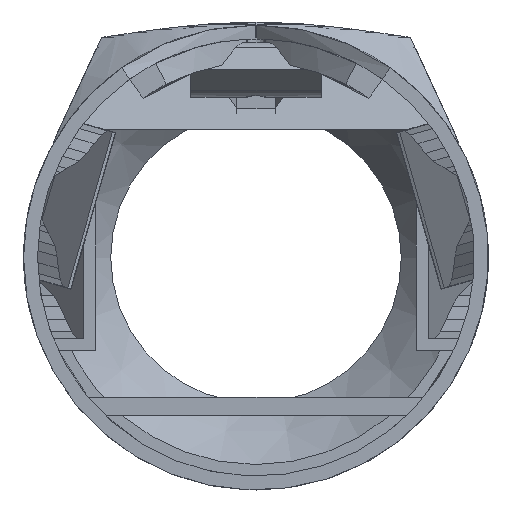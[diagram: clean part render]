
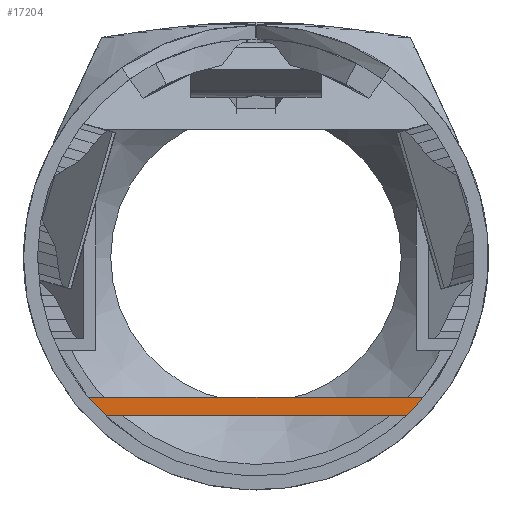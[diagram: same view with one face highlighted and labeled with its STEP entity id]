
A CAD part, left-side view. The second image highlights one B-rep face of the part: STEP entity #17204.
In plain terms, the highlighted planar face has unit normal (-1, 0, 0).
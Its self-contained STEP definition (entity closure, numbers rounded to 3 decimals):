
#6579 = CYLINDRICAL_SURFACE('',#6580,18.8);
#6580 = AXIS2_PLACEMENT_3D('',#6581,#6582,#6583);
#6581 = CARTESIAN_POINT('',(42.,0.,0.));
#6582 = DIRECTION('',(1.,0.,0.));
#6583 = DIRECTION('',(-0.,1.,0.));
#14800 = EDGE_CURVE('',#14801,#14803,#14805,.T.);
#14801 = VERTEX_POINT('',#14802);
#14802 = CARTESIAN_POINT('',(220.,-14.472,-12.));
#14803 = VERTEX_POINT('',#14804);
#14804 = CARTESIAN_POINT('',(220.,-12.98,-13.6));
#14805 = SURFACE_CURVE('',#14806,(#14811,#14818),.PCURVE_S1.);
#14806 = CIRCLE('',#14807,18.8);
#14807 = AXIS2_PLACEMENT_3D('',#14808,#14809,#14810);
#14808 = CARTESIAN_POINT('',(220.,0.,0.));
#14809 = DIRECTION('',(1.,0.,0.));
#14810 = DIRECTION('',(-0.,1.,0.));
#14811 = PCURVE('',#6579,#14812);
#14812 = DEFINITIONAL_REPRESENTATION('',(#14813),#14817);
#14813 = LINE('',#14814,#14815);
#14814 = CARTESIAN_POINT('',(0.,178.));
#14815 = VECTOR('',#14816,1.);
#14816 = DIRECTION('',(1.,0.));
#14817 = ( GEOMETRIC_REPRESENTATION_CONTEXT(2) 
PARAMETRIC_REPRESENTATION_CONTEXT() REPRESENTATION_CONTEXT('2D SPACE',''
  ) );
#14818 = PCURVE('',#14819,#14824);
#14819 = PLANE('',#14820);
#14820 = AXIS2_PLACEMENT_3D('',#14821,#14822,#14823);
#14821 = CARTESIAN_POINT('',(220.,-14.972,-13.6));
#14822 = DIRECTION('',(1.,0.,-0.));
#14823 = DIRECTION('',(0.,0.,1.));
#14824 = DEFINITIONAL_REPRESENTATION('',(#14825),#14829);
#14825 = CIRCLE('',#14826,18.8);
#14826 = AXIS2_PLACEMENT_2D('',#14827,#14828);
#14827 = CARTESIAN_POINT('',(13.6,-14.972));
#14828 = DIRECTION('',(0.,-1.));
#14829 = ( GEOMETRIC_REPRESENTATION_CONTEXT(2) 
PARAMETRIC_REPRESENTATION_CONTEXT() REPRESENTATION_CONTEXT('2D SPACE',''
  ) );
#14846 = PLANE('',#14847);
#14847 = AXIS2_PLACEMENT_3D('',#14848,#14849,#14850);
#14848 = CARTESIAN_POINT('',(220.,-14.972,-12.));
#14849 = DIRECTION('',(0.,0.,1.));
#14850 = DIRECTION('',(1.,0.,-0.));
#14899 = PLANE('',#14900);
#14900 = AXIS2_PLACEMENT_3D('',#14901,#14902,#14903);
#14901 = CARTESIAN_POINT('',(220.,-14.972,-13.6));
#14902 = DIRECTION('',(0.,0.,1.));
#14903 = DIRECTION('',(1.,0.,-0.));
#14984 = EDGE_CURVE('',#14985,#14987,#14989,.T.);
#14985 = VERTEX_POINT('',#14986);
#14986 = CARTESIAN_POINT('',(220.,12.98,-13.6));
#14987 = VERTEX_POINT('',#14988);
#14988 = CARTESIAN_POINT('',(220.,14.472,-12.));
#14989 = SURFACE_CURVE('',#14990,(#14995,#15002),.PCURVE_S1.);
#14990 = CIRCLE('',#14991,18.8);
#14991 = AXIS2_PLACEMENT_3D('',#14992,#14993,#14994);
#14992 = CARTESIAN_POINT('',(220.,0.,0.));
#14993 = DIRECTION('',(1.,0.,0.));
#14994 = DIRECTION('',(-0.,1.,0.));
#14995 = PCURVE('',#6579,#14996);
#14996 = DEFINITIONAL_REPRESENTATION('',(#14997),#15001);
#14997 = LINE('',#14998,#14999);
#14998 = CARTESIAN_POINT('',(0.,178.));
#14999 = VECTOR('',#15000,1.);
#15000 = DIRECTION('',(1.,0.));
#15001 = ( GEOMETRIC_REPRESENTATION_CONTEXT(2) 
PARAMETRIC_REPRESENTATION_CONTEXT() REPRESENTATION_CONTEXT('2D SPACE',''
  ) );
#15002 = PCURVE('',#14819,#15003);
#15003 = DEFINITIONAL_REPRESENTATION('',(#15004),#15008);
#15004 = CIRCLE('',#15005,18.8);
#15005 = AXIS2_PLACEMENT_2D('',#15006,#15007);
#15006 = CARTESIAN_POINT('',(13.6,-14.972));
#15007 = DIRECTION('',(0.,-1.));
#15008 = ( GEOMETRIC_REPRESENTATION_CONTEXT(2) 
PARAMETRIC_REPRESENTATION_CONTEXT() REPRESENTATION_CONTEXT('2D SPACE',''
  ) );
#15077 = EDGE_CURVE('',#14803,#14985,#15078,.T.);
#15078 = SURFACE_CURVE('',#15079,(#15083,#15090),.PCURVE_S1.);
#15079 = LINE('',#15080,#15081);
#15080 = CARTESIAN_POINT('',(220.,-14.972,-13.6));
#15081 = VECTOR('',#15082,1.);
#15082 = DIRECTION('',(-0.,1.,0.));
#15083 = PCURVE('',#14899,#15084);
#15084 = DEFINITIONAL_REPRESENTATION('',(#15085),#15089);
#15085 = LINE('',#15086,#15087);
#15086 = CARTESIAN_POINT('',(0.,0.));
#15087 = VECTOR('',#15088,1.);
#15088 = DIRECTION('',(0.,1.));
#15089 = ( GEOMETRIC_REPRESENTATION_CONTEXT(2) 
PARAMETRIC_REPRESENTATION_CONTEXT() REPRESENTATION_CONTEXT('2D SPACE',''
  ) );
#15090 = PCURVE('',#14819,#15091);
#15091 = DEFINITIONAL_REPRESENTATION('',(#15092),#15096);
#15092 = LINE('',#15093,#15094);
#15093 = CARTESIAN_POINT('',(0.,0.));
#15094 = VECTOR('',#15095,1.);
#15095 = DIRECTION('',(0.,-1.));
#15096 = ( GEOMETRIC_REPRESENTATION_CONTEXT(2) 
PARAMETRIC_REPRESENTATION_CONTEXT() REPRESENTATION_CONTEXT('2D SPACE',''
  ) );
#17142 = EDGE_CURVE('',#14801,#14987,#17143,.T.);
#17143 = SURFACE_CURVE('',#17144,(#17148,#17155),.PCURVE_S1.);
#17144 = LINE('',#17145,#17146);
#17145 = CARTESIAN_POINT('',(220.,-14.972,-12.));
#17146 = VECTOR('',#17147,1.);
#17147 = DIRECTION('',(-0.,1.,0.));
#17148 = PCURVE('',#14846,#17149);
#17149 = DEFINITIONAL_REPRESENTATION('',(#17150),#17154);
#17150 = LINE('',#17151,#17152);
#17151 = CARTESIAN_POINT('',(0.,0.));
#17152 = VECTOR('',#17153,1.);
#17153 = DIRECTION('',(0.,1.));
#17154 = ( GEOMETRIC_REPRESENTATION_CONTEXT(2) 
PARAMETRIC_REPRESENTATION_CONTEXT() REPRESENTATION_CONTEXT('2D SPACE',''
  ) );
#17155 = PCURVE('',#14819,#17156);
#17156 = DEFINITIONAL_REPRESENTATION('',(#17157),#17161);
#17157 = LINE('',#17158,#17159);
#17158 = CARTESIAN_POINT('',(1.6,0.));
#17159 = VECTOR('',#17160,1.);
#17160 = DIRECTION('',(0.,-1.));
#17161 = ( GEOMETRIC_REPRESENTATION_CONTEXT(2) 
PARAMETRIC_REPRESENTATION_CONTEXT() REPRESENTATION_CONTEXT('2D SPACE',''
  ) );
#17204 = ADVANCED_FACE('',(#17205),#14819,.F.);
#17205 = FACE_BOUND('',#17206,.F.);
#17206 = EDGE_LOOP('',(#17207,#17208,#17209,#17210));
#17207 = ORIENTED_EDGE('',*,*,#17142,.F.);
#17208 = ORIENTED_EDGE('',*,*,#14800,.T.);
#17209 = ORIENTED_EDGE('',*,*,#15077,.T.);
#17210 = ORIENTED_EDGE('',*,*,#14984,.T.);
